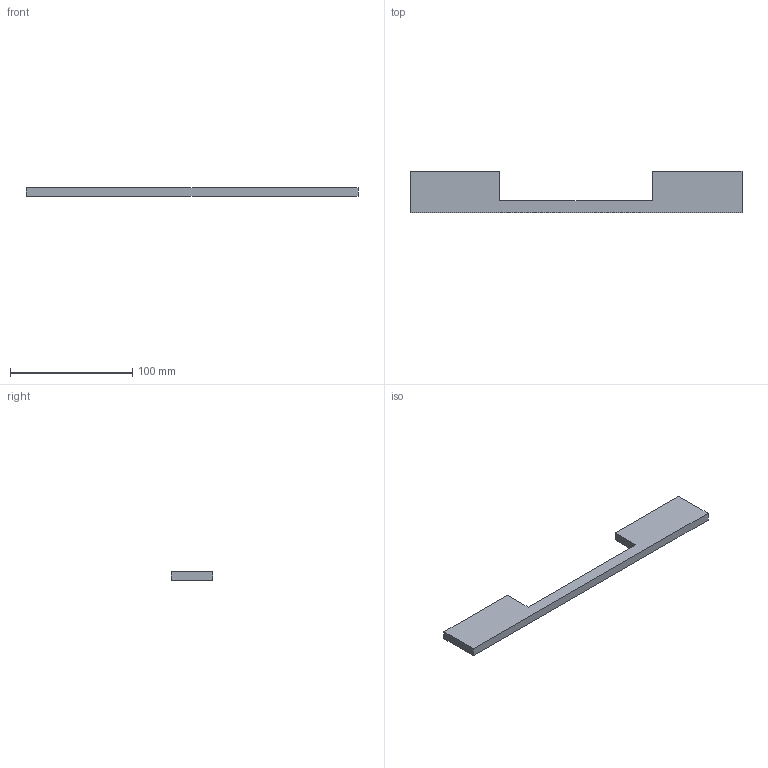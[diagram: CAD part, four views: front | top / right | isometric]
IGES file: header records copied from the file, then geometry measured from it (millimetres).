
Start section: Data from Parasolid IGES Translator 20.0.26, Copyright(c) 2006 Siemens P LM Software. All Rights Reserved.
Global section: file name: 115014.igs; native system: By Siemens PLM Incorporated; preprocessor: XPlus GENERIC/IGES 20.0.26; author: Noname; organization: Noname; date: 20230605.152928; units: millimetre
Bounding box: 272 x 34 x 7 mm (x, y, z)
Surface area: 17618.7 mm2 (no closed solid volume)
Topology: 0 solids, 0 shells, 18 faces, 72 edges, 66 vertices
Faces by surface type: extrusion 14, revolution 4
